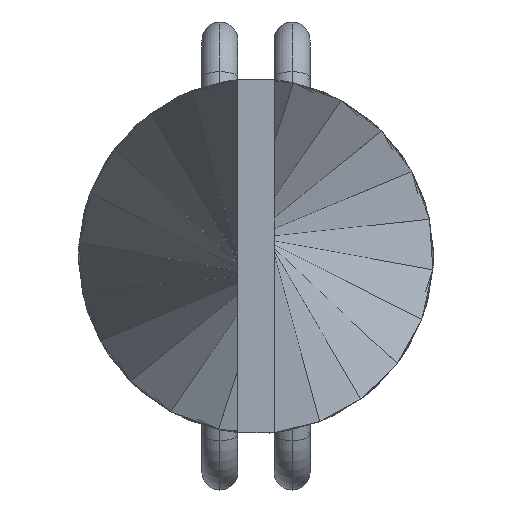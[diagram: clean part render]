
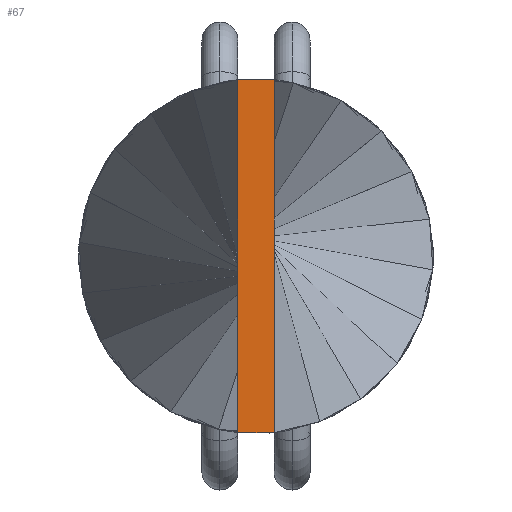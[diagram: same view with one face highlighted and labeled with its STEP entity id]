
A CAD part, left-side view. The second image highlights one B-rep face of the part: STEP entity #67.
In plain terms, the highlighted planar face has unit normal (-1, 0, 0).
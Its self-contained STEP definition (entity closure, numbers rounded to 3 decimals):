
#17 = EDGE_CURVE ( 'NONE', #3062, #1635, #719, .T. ) ;
#32 = CARTESIAN_POINT ( 'NONE',  ( -100., 0.5, -4.9 ) ) ;
#67 = ADVANCED_FACE ( 'NONE', ( #1303 ), #3312, .T. ) ;
#106 = AXIS2_PLACEMENT_3D ( 'NONE', #508, #1256, #3065 ) ;
#162 = EDGE_LOOP ( 'NONE', ( #708, #275, #367, #665 ) ) ;
#221 = VECTOR ( 'NONE', #3074, 1000. ) ;
#263 = CARTESIAN_POINT ( 'NONE',  ( -100., 0.5, 4.9 ) ) ;
#275 = ORIENTED_EDGE ( 'NONE', *, *, #17, .T. ) ;
#317 = DIRECTION ( 'NONE',  ( 0., 0., -1. ) ) ;
#367 = ORIENTED_EDGE ( 'NONE', *, *, #3097, .T. ) ;
#410 = CARTESIAN_POINT ( 'NONE',  ( -100., -0.5, 4.9 ) ) ;
#508 = CARTESIAN_POINT ( 'NONE',  ( -100., 0., 0. ) ) ;
#665 = ORIENTED_EDGE ( 'NONE', *, *, #1295, .T. ) ;
#708 = ORIENTED_EDGE ( 'NONE', *, *, #1781, .T. ) ;
#719 = LINE ( 'NONE', #1239, #2678 ) ;
#865 = CARTESIAN_POINT ( 'NONE',  ( -100., -0.5, 4.9 ) ) ;
#875 = VERTEX_POINT ( 'NONE', #263 ) ;
#993 = VERTEX_POINT ( 'NONE', #2777 ) ;
#1032 = CARTESIAN_POINT ( 'NONE',  ( -100., 0.5, 4.9 ) ) ;
#1239 = CARTESIAN_POINT ( 'NONE',  ( -100., -0.5, -4.9 ) ) ;
#1256 = DIRECTION ( 'NONE',  ( -1., 0., 0. ) ) ;
#1295 = EDGE_CURVE ( 'NONE', #875, #993, #3308, .T. ) ;
#1303 = FACE_OUTER_BOUND ( 'NONE', #162, .T. ) ;
#1411 = CARTESIAN_POINT ( 'NONE',  ( -100., -0.5, -4.9 ) ) ;
#1503 = DIRECTION ( 'NONE',  ( 0., 0., 1. ) ) ;
#1565 = LINE ( 'NONE', #32, #221 ) ;
#1635 = VERTEX_POINT ( 'NONE', #865 ) ;
#1694 = DIRECTION ( 'NONE',  ( 0., 1., 0. ) ) ;
#1781 = EDGE_CURVE ( 'NONE', #993, #3062, #1565, .T. ) ;
#1832 = VECTOR ( 'NONE', #1694, 1000. ) ;
#2519 = LINE ( 'NONE', #410, #1832 ) ;
#2547 = VECTOR ( 'NONE', #317, 1000. ) ;
#2678 = VECTOR ( 'NONE', #1503, 1000. ) ;
#2777 = CARTESIAN_POINT ( 'NONE',  ( -100., 0.5, -4.9 ) ) ;
#3062 = VERTEX_POINT ( 'NONE', #1411 ) ;
#3065 = DIRECTION ( 'NONE',  ( 0., 0., 1. ) ) ;
#3074 = DIRECTION ( 'NONE',  ( 0., -1., 0. ) ) ;
#3097 = EDGE_CURVE ( 'NONE', #1635, #875, #2519, .T. ) ;
#3308 = LINE ( 'NONE', #1032, #2547 ) ;
#3312 = PLANE ( 'NONE',  #106 ) ;
